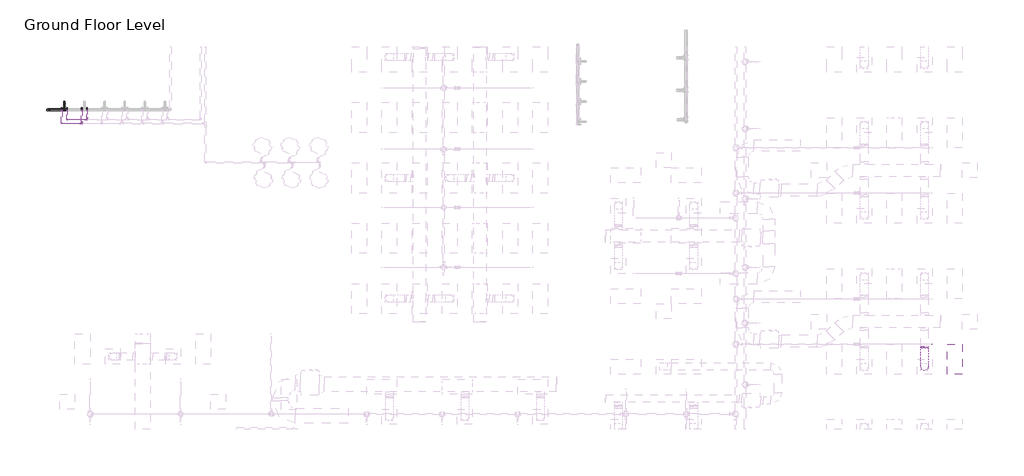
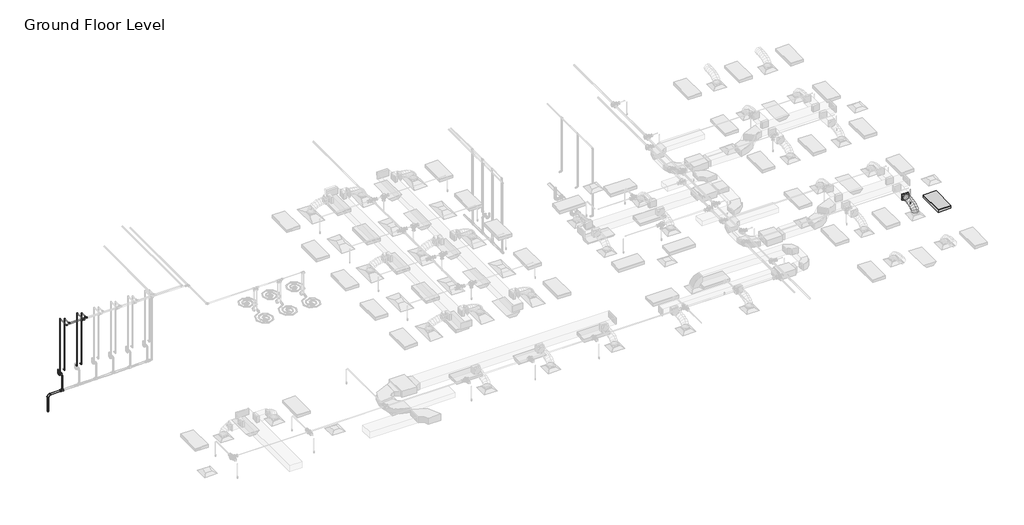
# One storey, part 38 of 66: 22 pipe fittings, 22 pipe segments, 1 duct fitting, 1 duct segment, 1 fire suppression terminal, 1 light fixture.
"""IFC4 building model written with IfcOpenShell, lengths in millimetres."""

from ifc_helpers import new_model, si_unit, point, frame, frame_2d, origin, place, context, project, spatial, circle_curve, ellipse_curve, trimmed, segment, composite_curve, outline, extrude, transform, mapped, element, save
from ifc_brep_helpers import plane_surface, cylinder_surface, advanced_brep
from components import m_rectangular_to_round_transition_angle_45_degree_641efff0, m_sprinkler_dry_pendent_hosted_15_mm_dry_pendent_9bda8e11, m_troffer_light_parabolic_rectangular1_0600x1200mm_4_lamp_86473d4a, m_bend_pvc_sch_40_dwv_standard_0eeb11e1, m_bend_pvc_sch_40_dwv_standard_1e7bdcc1, m_bend_pvc_sch_40_dwv_standard_776e50c4, m_bend_pvc_sch_40_dwv_standard_a69ec96e, m_tee_reducing_sanitary_pvc_sch_40_dwv_standard_21d2848c, standard_b266ab3f, standard_72b35c3b, standard_e954f56a, standard_c7dcb452

model = new_model("IFC4")

# Units and contexts
model_context = context("Model", 3, world=origin())
ifc_project = project(units=[si_unit("LENGTHUNIT", "METRE", prefix="MILLI")], contexts=[model_context])

# Site, building, storey
site = spatial("IfcSite", under=ifc_project)
building = spatial("IfcBuilding", under=site)
storey = spatial("IfcBuildingStorey", under=building, Name="Ground Floor Level", Elevation=900.0)

# Duct fitting
placement = place(None, origin())
m_rectangular_to_round_transition_angle_45_degree_shape = m_rectangular_to_round_transition_angle_45_degree_641efff0(model_context)
element("IfcDuctFitting", 1, ObjectType="M_Rectangular to Round Transition - Angle : 45 Degree", at=placement, inside=storey, context=model_context, shape_type="MappedRepresentation", body=[
    mapped(m_rectangular_to_round_transition_angle_45_degree_shape, transform((13142.7672395, -247.4487153, 4100.0), x_axis=(0.0, -1.0, 0.0), y_axis=(1.0, 0.0, 0.0), z_axis=(0.0, 0.0, 1.0))),
])

# Duct segment
element("IfcDuctSegment", 2, ObjectType="Flex - Round", at=placement, inside=storey, context=model_context, shape_type="AdvancedBrep", body=[
    advanced_brep(
    [(13292.7672395, -1074.7846466, 3826.6), (13142.7672395, -1224.7846466, 3826.6), (12992.7672395, -1074.7846466, 3826.6), (13142.7672395, -924.7846466, 3826.6), (13292.7672395, -1074.7846466, 3857.9377114), (13142.7672395, -1224.7846466, 3883.5809337), (12992.7672395, -1074.7846466, 3857.9377114), (13142.7672395, -924.7846466, 3832.2944892), (13292.7672395, -1057.7687141, 3906.2505728), (13142.7672395, -1191.506693, 3978.0660967), (12992.7672395, -1057.7687141, 3906.2505728), (13142.7672395, -924.0307351, 3834.435049), (13292.7672395, -1010.5848337, 3968.7113131), (13142.7672395, -1114.790733, 4079.6206026), (12992.7672395, -1010.5848337, 3968.7113131), (13142.7672395, -906.3789345, 3857.8020236), (13292.7672395, -939.0288816, 4016.0700639), (13142.7672395, -1007.9629372, 4150.3237489), (12992.7672395, -939.0288816, 4016.0700639), (13142.7672395, -870.0948259, 3881.8163788), (13292.7672395, -848.8967336, 4050.4146682), (13142.7672395, -892.4574967, 4194.3367758), (12992.7672395, -848.8967336, 4050.4146682), (13142.7672395, -805.3359704, 3906.4925606), (13292.7672395, -745.9842657, 4073.8329691), (13142.7672395, -772.5451897, 4221.6234841), (12992.7672395, -745.9842657, 4073.8329691), (13142.7672395, -719.4233417, 3926.0424542), (13292.7672395, -636.087354, 4088.4128097), (13142.7672395, -651.2382563, 4237.7170733), (12992.7672395, -636.087354, 4088.4128097), (13142.7672395, -620.9364516, 3939.1085462), (13292.7672395, -525.0018744, 4096.242033), (13142.7672395, -532.5072025, 4246.085151), (12992.7672395, -525.0018744, 4096.242033), (13142.7672395, -517.4965462, 3946.398915), (13292.7672395, -418.5237028, 4099.4084821), (13142.7672395, -421.2151959, 4249.394754), (12992.7672395, -418.5237028, 4099.4084821), (13142.7672395, -415.8322097, 3949.4222102), (13292.7672395, -322.4487153, 4100.0), (13142.7672395, -321.5252075, 3950.0028429), (12992.7672395, -322.4487153, 4100.0), (13142.7672395, -323.3722232, 4249.9971571)],
    [
        (0, 1, circle_curve(frame((13142.7672395, -1074.7846466, 3826.6), z_axis=(0.0, 0.0, -1.0), x_axis=(1.0, 0.0, 0.0)), 150.0)),
        (1, 2, circle_curve(frame((13142.7672395, -1074.7846466, 3826.6), z_axis=(0.0, 0.0, -1.0), x_axis=(1.0, 0.0, 0.0)), 150.0)),
        (2, 3, circle_curve(frame((13142.7672395, -1074.7846466, 3826.6), z_axis=(0.0, 0.0, -1.0), x_axis=(1.0, 0.0, 0.0)), 150.0)),
        (3, 0, circle_curve(frame((13142.7672395, -1074.7846466, 3826.6), z_axis=(0.0, 0.0, -1.0), x_axis=(1.0, 0.0, 0.0)), 150.0)),
        (0, 4),
        (4, 5, ellipse_curve(frame((13142.7672395, -1074.7846466, 3857.9377114), z_axis=(0.0, -0.16851014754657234, -0.9856999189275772), x_axis=(0.0, 0.9856999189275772, -0.1685101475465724)), 152.176131, 150.0)),
        (5, 1),
        (5, 6, ellipse_curve(frame((13142.7672395, -1074.7846466, 3857.9377114), z_axis=(0.0, -0.16851014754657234, -0.9856999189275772), x_axis=(0.0, 0.9856999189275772, -0.1685101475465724)), 152.176131, 150.0)),
        (6, 2),
        (6, 7, ellipse_curve(frame((13142.7672395, -1074.7846466, 3857.9377114), z_axis=(0.0, -0.16851014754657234, -0.9856999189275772), x_axis=(0.0, 0.9856999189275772, -0.1685101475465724)), 152.176131, 150.0)),
        (7, 3),
        (7, 4, ellipse_curve(frame((13142.7672395, -1074.7846466, 3857.9377114), z_axis=(0.0, -0.16851014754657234, -0.9856999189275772), x_axis=(0.0, 0.9856999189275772, -0.1685101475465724)), 152.176131, 150.0)),
        (4, 8),
        (8, 9, ellipse_curve(frame((13142.7672395, -1057.7687141, 3906.2505728), z_axis=(0.0, -0.4730922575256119, -0.8810128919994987), x_axis=(0.0, 0.8810128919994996, -0.47309225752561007)), 151.8002519, 150.0)),
        (9, 5),
        (9, 10, ellipse_curve(frame((13142.7672395, -1057.7687141, 3906.2505728), z_axis=(0.0, -0.4730922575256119, -0.8810128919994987), x_axis=(0.0, 0.8810128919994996, -0.47309225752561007)), 151.8002519, 150.0)),
        (10, 6),
        (10, 11, ellipse_curve(frame((13142.7672395, -1057.7687141, 3906.2505728), z_axis=(0.0, -0.4730922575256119, -0.8810128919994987), x_axis=(0.0, 0.8810128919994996, -0.47309225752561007)), 151.8002519, 150.0)),
        (11, 7),
        (11, 8, ellipse_curve(frame((13142.7672395, -1057.7687141, 3906.2505728), z_axis=(0.0, -0.4730922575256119, -0.8810128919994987), x_axis=(0.0, 0.8810128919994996, -0.47309225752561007)), 151.8002519, 150.0)),
        (8, 12),
        (12, 13, ellipse_curve(frame((13142.7672395, -1010.5848337, 3968.7113131), z_axis=(0.0, -0.7287877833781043, -0.6847396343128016), x_axis=(0.0, 0.684739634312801, -0.7287877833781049)), 152.1832446, 150.0)),
        (13, 9),
        (13, 14, ellipse_curve(frame((13142.7672395, -1010.5848337, 3968.7113131), z_axis=(0.0, -0.7287877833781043, -0.6847396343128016), x_axis=(0.0, 0.684739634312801, -0.7287877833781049)), 152.1832446, 150.0)),
        (14, 10),
        (14, 15, ellipse_curve(frame((13142.7672395, -1010.5848337, 3968.7113131), z_axis=(0.0, -0.7287877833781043, -0.6847396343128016), x_axis=(0.0, 0.684739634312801, -0.7287877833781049)), 152.1832446, 150.0)),
        (15, 11),
        (15, 12, ellipse_curve(frame((13142.7672395, -1010.5848337, 3968.7113131), z_axis=(0.0, -0.7287877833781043, -0.6847396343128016), x_axis=(0.0, 0.684739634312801, -0.7287877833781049)), 152.1832446, 150.0)),
        (12, 16),
        (16, 17, ellipse_curve(frame((13142.7672395, -939.0288816, 4016.0700639), z_axis=(0.0, -0.8895859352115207, -0.4567678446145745), x_axis=(0.0, 0.45676784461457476, -0.8895859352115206)), 150.91705, 150.0)),
        (17, 13),
        (17, 18, ellipse_curve(frame((13142.7672395, -939.0288816, 4016.0700639), z_axis=(0.0, -0.8895859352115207, -0.4567678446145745), x_axis=(0.0, 0.45676784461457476, -0.8895859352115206)), 150.91705, 150.0)),
        (18, 14),
        (18, 19, ellipse_curve(frame((13142.7672395, -939.0288816, 4016.0700639), z_axis=(0.0, -0.8895859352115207, -0.4567678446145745), x_axis=(0.0, 0.45676784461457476, -0.8895859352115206)), 150.91705, 150.0)),
        (19, 15),
        (19, 16, ellipse_curve(frame((13142.7672395, -939.0288816, 4016.0700639), z_axis=(0.0, -0.8895859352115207, -0.4567678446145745), x_axis=(0.0, 0.45676784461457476, -0.8895859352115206)), 150.91705, 150.0)),
        (16, 20),
        (20, 21, ellipse_curve(frame((13142.7672395, -848.8967336, 4050.4146682), z_axis=(0.0, -0.9571203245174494, -0.2896906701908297), x_axis=(0.0, 0.2896906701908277, -0.9571203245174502)), 150.369921, 150.0)),
        (21, 17),
        (21, 22, ellipse_curve(frame((13142.7672395, -848.8967336, 4050.4146682), z_axis=(0.0, -0.9571203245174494, -0.2896906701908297), x_axis=(0.0, 0.2896906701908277, -0.9571203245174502)), 150.369921, 150.0)),
        (22, 18),
        (22, 23, ellipse_curve(frame((13142.7672395, -848.8967336, 4050.4146682), z_axis=(0.0, -0.9571203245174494, -0.2896906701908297), x_axis=(0.0, 0.2896906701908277, -0.9571203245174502)), 150.369921, 150.0)),
        (23, 19),
        (23, 20, ellipse_curve(frame((13142.7672395, -848.8967336, 4050.4146682), z_axis=(0.0, -0.9571203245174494, -0.2896906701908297), x_axis=(0.0, 0.2896906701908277, -0.9571203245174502)), 150.369921, 150.0)),
        (20, 24),
        (24, 25, ellipse_curve(frame((13142.7672395, -745.9842657, 4073.8329691), z_axis=(0.0, -0.9842313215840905, -0.1768861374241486), x_axis=(0.0, 0.17688613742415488, -0.9842313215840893)), 150.1583131, 150.0)),
        (25, 21),
        (25, 26, ellipse_curve(frame((13142.7672395, -745.9842657, 4073.8329691), z_axis=(0.0, -0.9842313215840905, -0.1768861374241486), x_axis=(0.0, 0.17688613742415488, -0.9842313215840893)), 150.1583131, 150.0)),
        (26, 22),
        (26, 27, ellipse_curve(frame((13142.7672395, -745.9842657, 4073.8329691), z_axis=(0.0, -0.9842313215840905, -0.1768861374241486), x_axis=(0.0, 0.17688613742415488, -0.9842313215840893)), 150.1583131, 150.0)),
        (27, 23),
        (27, 24, ellipse_curve(frame((13142.7672395, -745.9842657, 4073.8329691), z_axis=(0.0, -0.9842313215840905, -0.1768861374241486), x_axis=(0.0, 0.17688613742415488, -0.9842313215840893)), 150.1583131, 150.0)),
        (24, 28),
        (28, 29, ellipse_curve(frame((13142.7672395, -636.087354, 4088.4128097), z_axis=(0.0, -0.9948906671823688, -0.1009582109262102), x_axis=(0.0, 0.10095821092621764, -0.994890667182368)), 150.0710264, 150.0)),
        (29, 25),
        (29, 30, ellipse_curve(frame((13142.7672395, -636.087354, 4088.4128097), z_axis=(0.0, -0.9948906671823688, -0.1009582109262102), x_axis=(0.0, 0.10095821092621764, -0.994890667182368)), 150.0710264, 150.0)),
        (30, 26),
        (30, 31, ellipse_curve(frame((13142.7672395, -636.087354, 4088.4128097), z_axis=(0.0, -0.9948906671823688, -0.1009582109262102), x_axis=(0.0, 0.10095821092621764, -0.994890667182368)), 150.0710264, 150.0)),
        (31, 27),
        (31, 28, ellipse_curve(frame((13142.7672395, -636.087354, 4088.4128097), z_axis=(0.0, -0.9948906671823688, -0.1009582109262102), x_axis=(0.0, 0.10095821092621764, -0.994890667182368)), 150.0710264, 150.0)),
        (28, 32),
        (32, 33, ellipse_curve(frame((13142.7672395, -525.0018744, 4096.242033), z_axis=(0.0, -0.9987479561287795, -0.05002519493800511), x_axis=(0.0, 0.050025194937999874, -0.9987479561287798)), 150.0309634, 150.0)),
        (33, 29),
        (33, 34, ellipse_curve(frame((13142.7672395, -525.0018744, 4096.242033), z_axis=(0.0, -0.9987479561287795, -0.05002519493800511), x_axis=(0.0, 0.050025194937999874, -0.9987479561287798)), 150.0309634, 150.0)),
        (34, 30),
        (34, 35, ellipse_curve(frame((13142.7672395, -525.0018744, 4096.242033), z_axis=(0.0, -0.9987479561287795, -0.05002519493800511), x_axis=(0.0, 0.050025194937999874, -0.9987479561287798)), 150.0309634, 150.0)),
        (35, 31),
        (35, 32, ellipse_curve(frame((13142.7672395, -525.0018744, 4096.242033), z_axis=(0.0, -0.9987479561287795, -0.05002519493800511), x_axis=(0.0, 0.050025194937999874, -0.9987479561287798)), 150.0309634, 150.0)),
        (32, 36),
        (36, 37, ellipse_curve(frame((13142.7672395, -418.5237028, 4099.4084821), z_axis=(0.0, -0.9998390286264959, -0.017942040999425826), x_axis=(0.0, 0.017942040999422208, -0.999839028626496)), 150.0104193, 150.0)),
        (37, 33),
        (37, 38, ellipse_curve(frame((13142.7672395, -418.5237028, 4099.4084821), z_axis=(0.0, -0.9998390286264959, -0.017942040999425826), x_axis=(0.0, 0.017942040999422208, -0.999839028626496)), 150.0104193, 150.0)),
        (38, 34),
        (38, 39, ellipse_curve(frame((13142.7672395, -418.5237028, 4099.4084821), z_axis=(0.0, -0.9998390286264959, -0.017942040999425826), x_axis=(0.0, 0.017942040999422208, -0.999839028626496)), 150.0104193, 150.0)),
        (39, 35),
        (39, 36, ellipse_curve(frame((13142.7672395, -418.5237028, 4099.4084821), z_axis=(0.0, -0.9998390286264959, -0.017942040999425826), x_axis=(0.0, 0.017942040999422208, -0.999839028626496)), 150.0104193, 150.0)),
        (40, 41, circle_curve(frame((13142.7672395, -322.4487153, 4100.0), z_axis=(0.0, 0.9999810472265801, 0.006156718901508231), x_axis=(1.0, 0.0, 0.0)), 150.0)),
        (41, 42, circle_curve(frame((13142.7672395, -322.4487153, 4100.0), z_axis=(0.0, 0.9999810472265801, 0.006156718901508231), x_axis=(1.0, 0.0, 0.0)), 150.0)),
        (42, 43, circle_curve(frame((13142.7672395, -322.4487153, 4100.0), z_axis=(0.0, 0.9999810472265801, 0.006156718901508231), x_axis=(1.0, 0.0, 0.0)), 150.0)),
        (43, 40, circle_curve(frame((13142.7672395, -322.4487153, 4100.0), z_axis=(0.0, 0.9999810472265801, 0.006156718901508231), x_axis=(1.0, 0.0, 0.0)), 150.0)),
        (36, 40),
        (43, 37),
        (42, 38),
        (41, 39),
    ],
    [
        plane_surface(frame((13142.7672395, -1224.7846466, 3826.6), z_axis=(0.0, 0.0, -1.0), x_axis=(1.0, 0.0, 0.0))),
        cylinder_surface(frame((13142.7672395, -1074.7846466, 3826.6), z_axis=(0.0, 0.0, -1.0), x_axis=(1.0, 0.0, 0.0)), 150.0),
        cylinder_surface(frame((13142.7672395, -1074.7846466, 3857.9377114), z_axis=(0.0, -0.3322008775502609, -0.9432086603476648), x_axis=(1.0, 0.0, 0.0)), 150.0),
        cylinder_surface(frame((13142.7672395, -1057.7687141, 3906.2505728), z_axis=(0.0, -0.6027625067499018, -0.7979206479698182), x_axis=(1.0, 0.0, 0.0)), 150.0),
        cylinder_surface(frame((13142.7672395, -1010.5848337, 3968.7113131), z_axis=(0.0, -0.8339024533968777, -0.5519118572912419), x_axis=(1.0, 0.0, 0.0)), 150.0),
        cylinder_surface(frame((13142.7672395, -939.0288816, 4016.0700639), z_axis=(0.0, -0.9344582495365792, -0.3560727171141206), x_axis=(1.0, 0.0, 0.0)), 150.0),
        cylinder_surface(frame((13142.7672395, -848.8967336, 4050.4146682), z_axis=(0.0, -0.9750732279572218, -0.22188330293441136), x_axis=(1.0, 0.0, 0.0)), 150.0),
        cylinder_surface(frame((13142.7672395, -745.9842657, 4073.8329691), z_axis=(0.0, -0.9913140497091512, -0.1315159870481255), x_axis=(1.0, 0.0, 0.0)), 150.0),
        cylinder_surface(frame((13142.7672395, -636.087354, 4088.4128097), z_axis=(0.0, -0.9975255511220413, -0.07030487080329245), x_axis=(1.0, 0.0, 0.0)), 150.0),
        cylinder_surface(frame((13142.7672395, -525.0018744, 4096.242033), z_axis=(0.0, -0.9995581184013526, -0.029724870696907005), x_axis=(1.0, 0.0, 0.0)), 150.0),
        plane_surface(frame((13142.7672395, -323.3722232, 4249.9971571), z_axis=(0.0, 0.9999810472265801, 0.006156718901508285), x_axis=(1.0, 0.0, 0.0))),
        cylinder_surface(frame((13142.7672395, -418.5237028, 4099.4084821), z_axis=(0.0, -0.9999810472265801, -0.006156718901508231), x_axis=(1.0, 0.0, 0.0)), 150.0),
    ],
    [
        (0, [[1, 2, 3, 4]]),
        (1, [[-1, 5, 6, 7]]),
        (1, [[-2, -7, 8, 9]]),
        (1, [[-3, -9, 10, 11]]),
        (1, [[-4, -11, 12, -5]]),
        (2, [[-6, 13, 14, 15]]),
        (2, [[-8, -15, 16, 17]]),
        (2, [[-10, -17, 18, 19]]),
        (2, [[-12, -19, 20, -13]]),
        (3, [[-14, 21, 22, 23]]),
        (3, [[-16, -23, 24, 25]]),
        (3, [[-18, -25, 26, 27]]),
        (3, [[-20, -27, 28, -21]]),
        (4, [[-22, 29, 30, 31]]),
        (4, [[-24, -31, 32, 33]]),
        (4, [[-26, -33, 34, 35]]),
        (4, [[-28, -35, 36, -29]]),
        (5, [[-30, 37, 38, 39]]),
        (5, [[-32, -39, 40, 41]]),
        (5, [[-34, -41, 42, 43]]),
        (5, [[-36, -43, 44, -37]]),
        (6, [[-38, 45, 46, 47]]),
        (6, [[-40, -47, 48, 49]]),
        (6, [[-42, -49, 50, 51]]),
        (6, [[-44, -51, 52, -45]]),
        (7, [[-46, 53, 54, 55]]),
        (7, [[-48, -55, 56, 57]]),
        (7, [[-50, -57, 58, 59]]),
        (7, [[-52, -59, 60, -53]]),
        (8, [[-54, 61, 62, 63]]),
        (8, [[-56, -63, 64, 65]]),
        (8, [[-58, -65, 66, 67]]),
        (8, [[-60, -67, 68, -61]]),
        (9, [[-62, 69, 70, 71]]),
        (9, [[-64, -71, 72, 73]]),
        (9, [[-66, -73, 74, 75]]),
        (9, [[-68, -75, 76, -69]]),
        (10, [[77, 78, 79, 80]]),
        (11, [[-70, 81, -80, 82]]),
        (11, [[-72, -82, -79, 83]]),
        (11, [[-74, -83, -78, 84]]),
        (11, [[-76, -84, -77, -81]]),
    ],
),
])

# Fire suppression terminal
m_sprinkler_dry_pendent_hosted_15_mm_dry_pendent_shape = m_sprinkler_dry_pendent_hosted_15_mm_dry_pendent_9bda8e11(model_context)
element("IfcFireSuppressionTerminal", 3, ObjectType="M_Sprinkler - Dry - Pendent - Hosted : 15 mm Dry Pendent", at=placement, inside=storey, context=model_context, shape_type="MappedRepresentation", body=[
    mapped(m_sprinkler_dry_pendent_hosted_15_mm_dry_pendent_shape, transform((13442.7672395, -174.7846466, 3650.0), x_axis=(1.0, 0.0, 0.0), y_axis=(0.0, -1.0, 0.0), z_axis=(0.0, 0.0, -1.0))),
])

# Light fixture
m_troffer_light_parabolic_rectangular1_0600x1200mm_4_lamp_shape = m_troffer_light_parabolic_rectangular1_0600x1200mm_4_lamp_86473d4a(model_context)
element("IfcLightFixture", 4, ObjectType="M_Troffer Light - Parabolic Rectangular1 : 0600x1200mm(4 Lamp) - 277V 2", at=placement, inside=storey, context=model_context, shape_type="MappedRepresentation", body=[
    mapped(m_troffer_light_parabolic_rectangular1_0600x1200mm_4_lamp_shape, transform((14283.3013074, -756.081145, 3650.0), x_axis=(0.0, 1.0, 0.0), y_axis=(-1.0, 0.0, 0.0), z_axis=(0.0, 0.0, 1.0))),
])

# Pipe fittings
m_bend_pvc_sch_40_dwv_standard_shape = m_bend_pvc_sch_40_dwv_standard_0eeb11e1(model_context)
element("IfcPipeFitting", 5, ObjectType="M_Bend - PVC - Sch 40 - DWV : Standard", at=placement, inside=storey, context=model_context, shape_type="MappedRepresentation", body=[
    mapped(m_bend_pvc_sch_40_dwv_standard_shape, transform((-21725.2711391, 9143.7835646, 712.5143809), x_axis=(-0.9999500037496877, 0.0, -0.009999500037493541), y_axis=(0.009999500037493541, 0.0, -0.9999500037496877), z_axis=(0.0, -1.0, 0.0))),
])
m_bend_pvc_sch_40_dwv_standard_2_shape = m_bend_pvc_sch_40_dwv_standard_1e7bdcc1(model_context)
element("IfcPipeFitting", 6, ObjectType="M_Bend - PVC - Sch 40 - DWV : Standard", at=placement, inside=storey, context=model_context, shape_type="MappedRepresentation", body=[
    mapped(m_bend_pvc_sch_40_dwv_standard_2_shape, transform((-21061.7062458, 9143.7835645, 1498.2000033), x_axis=(0.0, -0.9999500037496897, -0.00999950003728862), y_axis=(0.0, 0.00999950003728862, -0.9999500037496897), z_axis=(1.0, 0.0, 0.0))),
])
m_bend_pvc_sch_40_dwv_standard_3_shape = m_bend_pvc_sch_40_dwv_standard_776e50c4(model_context)
element("IfcPipeFitting", 7, ObjectType="M_Bend - PVC - Sch 40 - DWV : Standard", at=placement, inside=storey, context=model_context, shape_type="MappedRepresentation", body=[
    mapped(m_bend_pvc_sch_40_dwv_standard_3_shape, transform((-21061.7062458, 9323.7832388, 1358.6825726), x_axis=(0.0, -0.9999500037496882, -0.009999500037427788), y_axis=(0.0, -0.009999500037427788, 0.9999500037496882), z_axis=(-1.0, 0.0, 0.0))),
])
element("IfcPipeFitting", 8, ObjectType="M_Bend - PVC - Sch 40 - DWV : Standard", at=placement, inside=storey, context=model_context, shape_type="MappedRepresentation", body=[
    mapped(m_bend_pvc_sch_40_dwv_standard_3_shape, transform((-21061.7062458, 9323.7832388, 1500.0), x_axis=(0.0, 0.0, 1.0), y_axis=(0.0, -1.0, 0.0), z_axis=(1.0, 0.0, 0.0))),
])
m_bend_pvc_sch_40_dwv_standard_4_shape = m_bend_pvc_sch_40_dwv_standard_a69ec96e(model_context)
element("IfcPipeFitting", 9, ObjectType="M_Bend - PVC - Sch 40 - DWV : Standard", at=placement, inside=storey, context=model_context, shape_type="MappedRepresentation", body=[
    mapped(m_bend_pvc_sch_40_dwv_standard_4_shape, transform((-21061.7062458, 9458.7835646, 1360.0325758), x_axis=(0.0, 0.999950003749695, 0.009999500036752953), y_axis=(0.007367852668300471, -0.009999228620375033, 0.999922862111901), z_axis=(0.999972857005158, 7.36748430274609e-05, -0.007367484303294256))),
])
m_tee_reducing_sanitary_pvc_sch_40_dwv_standard_shape = m_tee_reducing_sanitary_pvc_sch_40_dwv_standard_21d2848c(model_context)
element("IfcPipeFitting", 10, ObjectType="M_Tee Reducing Sanitary - PVC - Sch 40 - DWV : Standard", at=placement, inside=storey, context=model_context, shape_type="MappedRepresentation", body=[
    mapped(m_tee_reducing_sanitary_pvc_sch_40_dwv_standard_shape, transform((-21061.7062458, 9143.7835645, 719.2500298), x_axis=(0.9999500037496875, 0.0, 0.009999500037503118), y_axis=(0.009999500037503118, 0.0, -0.9999500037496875), z_axis=(0.0, 1.0, 0.0))),
])
standard_shape = standard_b266ab3f(model_context)
element("IfcPipeFitting", 11, ObjectType="M_Elbow - CPVC - Sch 40 : Standard", at=placement, inside=storey, context=model_context, shape_type="MappedRepresentation", body=[
    mapped(standard_shape, transform((-21165.5651206, 9135.2153534, 1690.0), x_axis=(0.0, -1.0, 0.0), y_axis=(0.0, 0.0, 1.0), z_axis=(-1.0, 0.0, 0.0))),
])
element("IfcPipeFitting", 12, ObjectType="M_Elbow - CPVC - Sch 40 : Standard", at=placement, inside=storey, context=model_context, shape_type="MappedRepresentation", body=[
    mapped(standard_shape, transform((-21165.5651206, 9135.2153534, 4315.0), x_axis=(0.0, 0.0, 1.0), y_axis=(0.0, -1.0, 0.0), z_axis=(1.0, 0.0, 0.0))),
])
element("IfcPipeFitting", 13, ObjectType="M_Elbow - CPVC - Sch 40 : Standard", at=placement, inside=storey, context=model_context, shape_type="MappedRepresentation", body=[
    mapped(standard_shape, transform((-20956.9352794, 9135.2153534, 1690.0), x_axis=(0.0, -1.0, 0.0), y_axis=(0.0, 0.0, 1.0), z_axis=(-1.0, 0.0, 0.0))),
])
element("IfcPipeFitting", 14, ObjectType="M_Elbow - CPVC - Sch 40 : Standard", at=placement, inside=storey, context=model_context, shape_type="MappedRepresentation", body=[
    mapped(standard_shape, transform((-20956.9352794, 9135.2153534, 4250.0), x_axis=(0.0, 0.0, 1.0), y_axis=(0.0, -1.0, 0.0), z_axis=(1.0, 0.0, 0.0))),
])
element("IfcPipeFitting", 15, ObjectType="M_Elbow - CPVC - Sch 40 : Standard", at=placement, inside=storey, context=model_context, shape_type="MappedRepresentation", body=[
    mapped(standard_shape, transform((-20156.9352794, 9135.2153534, 4250.0), x_axis=(0.0, 0.0, 1.0), y_axis=(0.0, -1.0, 0.0), z_axis=(1.0, 0.0, 0.0))),
])
element("IfcPipeFitting", 16, ObjectType="M_Elbow - CPVC - Sch 40 : Standard", at=placement, inside=storey, context=model_context, shape_type="MappedRepresentation", body=[
    mapped(standard_shape, transform((-20365.5651206, 9135.2153534, 1690.0), x_axis=(0.0, 0.0, -1.0), y_axis=(0.0, 1.0, 0.0), z_axis=(1.0, 0.0, 0.0))),
])
element("IfcPipeFitting", 17, ObjectType="M_Elbow - CPVC - Sch 40 : Standard", at=placement, inside=storey, context=model_context, shape_type="MappedRepresentation", body=[
    mapped(standard_shape, transform((-20156.9352794, 9135.2153534, 1690.0), x_axis=(0.0, 0.0, -1.0), y_axis=(0.0, 1.0, 0.0), z_axis=(1.0, 0.0, 0.0))),
])
element("IfcPipeFitting", 18, ObjectType="M_Elbow - CPVC - Sch 40 : Standard", at=placement, inside=storey, context=model_context, shape_type="MappedRepresentation", body=[
    mapped(standard_shape, transform((-20365.5651206, 9135.2153534, 4315.0), x_axis=(0.0, 0.0, 1.0), y_axis=(0.0, -1.0, 0.0), z_axis=(1.0, 0.0, 0.0))),
])
element("IfcPipeFitting", 19, ObjectType="M_Elbow - CPVC - Sch 40 : Standard", at=placement, inside=storey, context=model_context, shape_type="MappedRepresentation", body=[
    mapped(standard_shape, transform((-21165.5651206, 8599.9071734, 4315.0), x_axis=(0.0, -1.0, 0.0), y_axis=(1.0, 0.0, 0.0), z_axis=(0.0, 0.0, 1.0))),
])
element("IfcPipeFitting", 20, ObjectType="M_Elbow - CPVC - Sch 40 : Standard", at=placement, inside=storey, context=model_context, shape_type="MappedRepresentation", body=[
    mapped(standard_shape, transform((-20956.9352794, 8755.2153534, 4250.0), x_axis=(0.0, -1.0, 0.0), y_axis=(1.0, 0.0, 0.0), z_axis=(0.0, 0.0, 1.0))),
])
standard_2_shape = standard_72b35c3b(model_context)
element("IfcPipeFitting", 21, ObjectType="M_Tee - CPVC - Sch 40 : Standard", at=placement, inside=storey, context=model_context, shape_type="MappedRepresentation", body=[
    mapped(standard_2_shape, transform((-20365.5651206, 8599.9071734, 4315.0), x_axis=(1.0, 0.0, 0.0), y_axis=(0.0, -1.0, 0.0), z_axis=(0.0, 0.0, -1.0))),
])
element("IfcPipeFitting", 22, ObjectType="M_Tee - CPVC - Sch 40 : Standard", at=placement, inside=storey, context=model_context, shape_type="MappedRepresentation", body=[
    mapped(standard_2_shape, transform((-20156.9352794, 8755.2153534, 4250.0), x_axis=(-1.0, 0.0, 0.0), y_axis=(0.0, -1.0, 0.0), z_axis=(0.0, 0.0, 1.0))),
])
standard_3_shape = standard_e954f56a(model_context)
element("IfcPipeFitting", 23, ObjectType="M_Coupling Reducing - CPVC - Sch 40 : Standard", at=placement, inside=storey, context=model_context, shape_type="MappedRepresentation", body=[
    mapped(standard_3_shape, transform((-20365.5651206, 8639.6073734, 4315.0), x_axis=(0.0, 1.0, 0.0), y_axis=(-1.0, 0.0, 0.0), z_axis=(0.0, 0.0, 1.0))),
])
element("IfcPipeFitting", 24, ObjectType="M_Coupling Reducing - CPVC - Sch 40 : Standard", at=placement, inside=storey, context=model_context, shape_type="MappedRepresentation", body=[
    mapped(standard_3_shape, transform((-20196.6354794, 8755.2153534, 4250.0), x_axis=(-1.0, 0.0, 0.0), y_axis=(0.0, -1.0, 0.0), z_axis=(0.0, 0.0, 1.0))),
])
element("IfcPipeFitting", 25, ObjectType="M_Coupling Reducing - CPVC - Sch 40 : Standard", at=placement, inside=storey, context=model_context, shape_type="MappedRepresentation", body=[
    mapped(standard_3_shape, transform((-20156.9352794, 8794.9155534, 4250.0), x_axis=(0.0, 1.0, 0.0), y_axis=(-1.0, 0.0, 0.0), z_axis=(0.0, 0.0, 1.0))),
])
standard_4_shape = standard_c7dcb452(model_context)
element("IfcPipeFitting", 26, ObjectType="M_Coupling Reducing - CPVC - Sch 40 : Standard", at=placement, inside=storey, context=model_context, shape_type="MappedRepresentation", body=[
    mapped(standard_4_shape, transform((-20462.4153206, 8599.9071734, 4315.0), x_axis=(1.0, 0.0, 0.0), y_axis=(0.0, 1.0, 0.0), z_axis=(0.0, 0.0, 1.0))),
])

# Pipe segments
element("IfcPipeSegment", 27, ObjectType="CPVC", at=placement, inside=storey, context=model_context, shape_type="SweptSolid", body=[
    extrude(outline(composite_curve([segment(trimmed(circle_curve(frame_2d((1690.0, -21165.5651206)), 13.335), [point((1690.0, -21178.9001206))], [point((1676.665, -21165.5651206))], False, "CARTESIAN"), True, "CONTINUOUS"), segment(trimmed(circle_curve(frame_2d((1690.0, -21165.5651206)), 13.335), [point((1676.665, -21165.5651206))], [point((1690.0, -21152.2301206))], False, "CARTESIAN"), True, "CONTINUOUS"), segment(trimmed(circle_curve(frame_2d((1690.0, -21165.5651206)), 13.335), [point((1690.0, -21152.2301206))], [point((1703.335, -21165.5651206))], False, "CARTESIAN"), True, "CONTINUOUS"), segment(trimmed(circle_curve(frame_2d((1690.0, -21165.5651206)), 13.335), [point((1703.335, -21165.5651206))], [point((1690.0, -21178.9001206))], False, "CARTESIAN"), True, "CONTINUOUS")], self_intersect=False)), frame((0.0, 9170.5404034, 0.0), z_axis=(0.0, 1.0, 0.0), x_axis=(0.0, 0.0, 1.0)), (0.0, 0.0, 1.0), 64.67495),
])
element("IfcPipeSegment", 28, ObjectType="CPVC", at=placement, inside=storey, context=model_context, shape_type="SweptSolid", body=[
    extrude(outline(composite_curve([segment(trimmed(circle_curve(frame_2d((4315.0, -21165.5651206)), 13.335), [point((4315.0, -21178.9001206))], [point((4301.665, -21165.5651206))], False, "CARTESIAN"), True, "CONTINUOUS"), segment(trimmed(circle_curve(frame_2d((4315.0, -21165.5651206)), 13.335), [point((4301.665, -21165.5651206))], [point((4315.0, -21152.2301206))], False, "CARTESIAN"), True, "CONTINUOUS"), segment(trimmed(circle_curve(frame_2d((4315.0, -21165.5651206)), 13.335), [point((4315.0, -21152.2301206))], [point((4328.335, -21165.5651206))], False, "CARTESIAN"), True, "CONTINUOUS"), segment(trimmed(circle_curve(frame_2d((4315.0, -21165.5651206)), 13.335), [point((4328.335, -21165.5651206))], [point((4315.0, -21178.9001206))], False, "CARTESIAN"), True, "CONTINUOUS")], self_intersect=False)), frame((0.0, 8635.2322234, 0.0), z_axis=(0.0, 1.0, 0.0), x_axis=(0.0, 0.0, 1.0)), (0.0, 0.0, 1.0), 464.65808),
])
element("IfcPipeSegment", 29, ObjectType="CPVC", at=placement, inside=storey, context=model_context, shape_type="SweptSolid", body=[
    extrude(outline(composite_curve([segment(trimmed(circle_curve(frame_2d((-21165.5651206, 9135.2153534)), 13.335), [point((-21178.9001206, 9135.2153534))], [point((-21165.5651206, 9148.5503534))], False, "CARTESIAN"), True, "CONTINUOUS"), segment(trimmed(circle_curve(frame_2d((-21165.5651206, 9135.2153534)), 13.335), [point((-21165.5651206, 9148.5503534))], [point((-21152.2301206, 9135.2153534))], False, "CARTESIAN"), True, "CONTINUOUS"), segment(trimmed(circle_curve(frame_2d((-21165.5651206, 9135.2153534)), 13.335), [point((-21152.2301206, 9135.2153534))], [point((-21165.5651206, 9121.8803534))], False, "CARTESIAN"), True, "CONTINUOUS"), segment(trimmed(circle_curve(frame_2d((-21165.5651206, 9135.2153534)), 13.335), [point((-21165.5651206, 9121.8803534))], [point((-21178.9001206, 9135.2153534))], False, "CARTESIAN"), True, "CONTINUOUS")], self_intersect=False)), frame((0.0, 0.0, 1725.32505), z_axis=(0.0, 0.0, 1.0), x_axis=(1.0, 0.0, 0.0)), (0.0, 0.0, 1.0), 2554.3499),
])
element("IfcPipeSegment", 30, ObjectType="CPVC", at=placement, inside=storey, context=model_context, shape_type="SweptSolid", body=[
    extrude(outline(composite_curve([segment(trimmed(circle_curve(frame_2d((1690.0, -20956.9352794)), 13.335), [point((1690.0, -20970.2702794))], [point((1676.665, -20956.9352794))], False, "CARTESIAN"), True, "CONTINUOUS"), segment(trimmed(circle_curve(frame_2d((1690.0, -20956.9352794)), 13.335), [point((1676.665, -20956.9352794))], [point((1690.0, -20943.6002794))], False, "CARTESIAN"), True, "CONTINUOUS"), segment(trimmed(circle_curve(frame_2d((1690.0, -20956.9352794)), 13.335), [point((1690.0, -20943.6002794))], [point((1703.335, -20956.9352794))], False, "CARTESIAN"), True, "CONTINUOUS"), segment(trimmed(circle_curve(frame_2d((1690.0, -20956.9352794)), 13.335), [point((1703.335, -20956.9352794))], [point((1690.0, -20970.2702794))], False, "CARTESIAN"), True, "CONTINUOUS")], self_intersect=False)), frame((0.0, 9170.5404034, 0.0), z_axis=(0.0, 1.0, 0.0), x_axis=(0.0, 0.0, 1.0)), (0.0, 0.0, 1.0), 64.67495),
])
element("IfcPipeSegment", 31, ObjectType="CPVC", at=placement, inside=storey, context=model_context, shape_type="SweptSolid", body=[
    extrude(outline(composite_curve([segment(trimmed(circle_curve(frame_2d((4250.0, -20956.9352794)), 13.335), [point((4250.0, -20970.2702794))], [point((4236.665, -20956.9352794))], False, "CARTESIAN"), True, "CONTINUOUS"), segment(trimmed(circle_curve(frame_2d((4250.0, -20956.9352794)), 13.335), [point((4236.665, -20956.9352794))], [point((4250.0, -20943.6002794))], False, "CARTESIAN"), True, "CONTINUOUS"), segment(trimmed(circle_curve(frame_2d((4250.0, -20956.9352794)), 13.335), [point((4250.0, -20943.6002794))], [point((4263.335, -20956.9352794))], False, "CARTESIAN"), True, "CONTINUOUS"), segment(trimmed(circle_curve(frame_2d((4250.0, -20956.9352794)), 13.335), [point((4263.335, -20956.9352794))], [point((4250.0, -20970.2702794))], False, "CARTESIAN"), True, "CONTINUOUS")], self_intersect=False)), frame((0.0, 8790.5404034, 0.0), z_axis=(0.0, 1.0, 0.0), x_axis=(0.0, 0.0, 1.0)), (0.0, 0.0, 1.0), 309.3499),
])
element("IfcPipeSegment", 32, ObjectType="CPVC", at=placement, inside=storey, context=model_context, shape_type="SweptSolid", body=[
    extrude(outline(composite_curve([segment(trimmed(circle_curve(frame_2d((-20956.9352794, 9135.2153534)), 13.335), [point((-20970.2702794, 9135.2153534))], [point((-20956.9352794, 9148.5503534))], False, "CARTESIAN"), True, "CONTINUOUS"), segment(trimmed(circle_curve(frame_2d((-20956.9352794, 9135.2153534)), 13.335), [point((-20956.9352794, 9148.5503534))], [point((-20943.6002794, 9135.2153534))], False, "CARTESIAN"), True, "CONTINUOUS"), segment(trimmed(circle_curve(frame_2d((-20956.9352794, 9135.2153534)), 13.335), [point((-20943.6002794, 9135.2153534))], [point((-20956.9352794, 9121.8803534))], False, "CARTESIAN"), True, "CONTINUOUS"), segment(trimmed(circle_curve(frame_2d((-20956.9352794, 9135.2153534)), 13.335), [point((-20956.9352794, 9121.8803534))], [point((-20970.2702794, 9135.2153534))], False, "CARTESIAN"), True, "CONTINUOUS")], self_intersect=False)), frame((0.0, 0.0, 1725.32505), z_axis=(0.0, 0.0, 1.0), x_axis=(1.0, 0.0, 0.0)), (0.0, 0.0, 1.0), 2489.3499),
])
element("IfcPipeSegment", 33, ObjectType="CPVC", at=placement, inside=storey, context=model_context, shape_type="SweptSolid", body=[
    extrude(outline(composite_curve([segment(trimmed(circle_curve(frame_2d((0.0, 13.335)), 13.335), [point((0.0, 26.67))], [point((13.335, 13.335))], False, "CARTESIAN"), True, "CONTINUOUS"), segment(trimmed(circle_curve(frame_2d((0.0, 13.335)), 13.335), [point((13.335, 13.335))], [point((0.0, 0.0))], False, "CARTESIAN"), True, "CONTINUOUS"), segment(trimmed(circle_curve(frame_2d((0.0, 13.335)), 13.335), [point((0.0, 0.0))], [point((-13.335, 13.335))], False, "CARTESIAN"), True, "CONTINUOUS"), segment(trimmed(circle_curve(frame_2d((0.0, 13.335)), 13.335), [point((-13.335, 13.335))], [point((0.0, 26.67))], False, "CARTESIAN"), True, "CONTINUOUS")], self_intersect=False)), frame((-20378.9001206, 9170.5404034, 1690.0), z_axis=(-6.212173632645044e-12, 1.0, 0.0), x_axis=(0.0, 0.0, 1.0)), (0.0, 0.0, 1.0), 64.67495),
])
element("IfcPipeSegment", 34, ObjectType="CPVC", at=placement, inside=storey, context=model_context, shape_type="SweptSolid", body=[
    extrude(outline(composite_curve([segment(trimmed(circle_curve(frame_2d((4315.0, -20365.5651206)), 13.335), [point((4315.0, -20378.9001206))], [point((4301.665, -20365.5651206))], False, "CARTESIAN"), True, "CONTINUOUS"), segment(trimmed(circle_curve(frame_2d((4315.0, -20365.5651206)), 13.335), [point((4301.665, -20365.5651206))], [point((4315.0, -20352.2301206))], False, "CARTESIAN"), True, "CONTINUOUS"), segment(trimmed(circle_curve(frame_2d((4315.0, -20365.5651206)), 13.335), [point((4315.0, -20352.2301206))], [point((4328.335, -20365.5651206))], False, "CARTESIAN"), True, "CONTINUOUS"), segment(trimmed(circle_curve(frame_2d((4315.0, -20365.5651206)), 13.335), [point((4328.335, -20365.5651206))], [point((4315.0, -20378.9001206))], False, "CARTESIAN"), True, "CONTINUOUS")], self_intersect=False)), frame((0.0, 8696.7573734, 0.0), z_axis=(0.0, 1.0, 0.0), x_axis=(0.0, 0.0, 1.0)), (0.0, 0.0, 1.0), 403.13293),
])
element("IfcPipeSegment", 35, ObjectType="CPVC", at=placement, inside=storey, context=model_context, shape_type="SweptSolid", body=[
    extrude(outline(composite_curve([segment(trimmed(circle_curve(frame_2d((-20365.5651206, 9135.2153534)), 13.335), [point((-20378.9001206, 9135.2153534))], [point((-20365.5651206, 9148.5503534))], False, "CARTESIAN"), True, "CONTINUOUS"), segment(trimmed(circle_curve(frame_2d((-20365.5651206, 9135.2153534)), 13.335), [point((-20365.5651206, 9148.5503534))], [point((-20352.2301206, 9135.2153534))], False, "CARTESIAN"), True, "CONTINUOUS"), segment(trimmed(circle_curve(frame_2d((-20365.5651206, 9135.2153534)), 13.335), [point((-20352.2301206, 9135.2153534))], [point((-20365.5651206, 9121.8803534))], False, "CARTESIAN"), True, "CONTINUOUS"), segment(trimmed(circle_curve(frame_2d((-20365.5651206, 9135.2153534)), 13.335), [point((-20365.5651206, 9121.8803534))], [point((-20378.9001206, 9135.2153534))], False, "CARTESIAN"), True, "CONTINUOUS")], self_intersect=False)), frame((0.0, 0.0, 1725.32505), z_axis=(0.0, 0.0, 1.0), x_axis=(1.0, 0.0, 0.0)), (0.0, 0.0, 1.0), 2554.3499),
])
element("IfcPipeSegment", 36, ObjectType="CPVC", at=placement, inside=storey, context=model_context, shape_type="SweptSolid", body=[
    extrude(outline(composite_curve([segment(trimmed(circle_curve(frame_2d((0.0, 13.335)), 13.335), [point((0.0, 26.67))], [point((13.335, 13.335))], False, "CARTESIAN"), True, "CONTINUOUS"), segment(trimmed(circle_curve(frame_2d((0.0, 13.335)), 13.335), [point((13.335, 13.335))], [point((0.0, 0.0))], False, "CARTESIAN"), True, "CONTINUOUS"), segment(trimmed(circle_curve(frame_2d((0.0, 13.335)), 13.335), [point((0.0, 0.0))], [point((-13.335, 13.335))], False, "CARTESIAN"), True, "CONTINUOUS"), segment(trimmed(circle_curve(frame_2d((0.0, 13.335)), 13.335), [point((-13.335, 13.335))], [point((0.0, 26.67))], False, "CARTESIAN"), True, "CONTINUOUS")], self_intersect=False)), frame((-20170.2702794, 9170.5404034, 1690.0), z_axis=(-6.212173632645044e-12, 1.0, 0.0), x_axis=(0.0, 0.0, 1.0)), (0.0, 0.0, 1.0), 64.67495),
])
element("IfcPipeSegment", 37, ObjectType="CPVC", at=placement, inside=storey, context=model_context, shape_type="SweptSolid", body=[
    extrude(outline(composite_curve([segment(trimmed(circle_curve(frame_2d((4250.0, -20156.9352794)), 13.335), [point((4250.0, -20170.2702794))], [point((4236.665, -20156.9352794))], False, "CARTESIAN"), True, "CONTINUOUS"), segment(trimmed(circle_curve(frame_2d((4250.0, -20156.9352794)), 13.335), [point((4236.665, -20156.9352794))], [point((4250.0, -20143.6002794))], False, "CARTESIAN"), True, "CONTINUOUS"), segment(trimmed(circle_curve(frame_2d((4250.0, -20156.9352794)), 13.335), [point((4250.0, -20143.6002794))], [point((4263.335, -20156.9352794))], False, "CARTESIAN"), True, "CONTINUOUS"), segment(trimmed(circle_curve(frame_2d((4250.0, -20156.9352794)), 13.335), [point((4263.335, -20156.9352794))], [point((4250.0, -20170.2702794))], False, "CARTESIAN"), True, "CONTINUOUS")], self_intersect=False)), frame((0.0, 8852.0655534, 0.0), z_axis=(0.0, 1.0, 0.0), x_axis=(0.0, 0.0, 1.0)), (0.0, 0.0, 1.0), 247.82475),
])
element("IfcPipeSegment", 38, ObjectType="CPVC", at=placement, inside=storey, context=model_context, shape_type="SweptSolid", body=[
    extrude(outline(composite_curve([segment(trimmed(circle_curve(frame_2d((-20156.9352794, 9135.2153534)), 13.335), [point((-20170.2702794, 9135.2153534))], [point((-20156.9352794, 9148.5503534))], False, "CARTESIAN"), True, "CONTINUOUS"), segment(trimmed(circle_curve(frame_2d((-20156.9352794, 9135.2153534)), 13.335), [point((-20156.9352794, 9148.5503534))], [point((-20143.6002794, 9135.2153534))], False, "CARTESIAN"), True, "CONTINUOUS"), segment(trimmed(circle_curve(frame_2d((-20156.9352794, 9135.2153534)), 13.335), [point((-20143.6002794, 9135.2153534))], [point((-20156.9352794, 9121.8803534))], False, "CARTESIAN"), True, "CONTINUOUS"), segment(trimmed(circle_curve(frame_2d((-20156.9352794, 9135.2153534)), 13.335), [point((-20156.9352794, 9121.8803534))], [point((-20170.2702794, 9135.2153534))], False, "CARTESIAN"), True, "CONTINUOUS")], self_intersect=False)), frame((0.0, 0.0, 1725.32505), z_axis=(0.0, 0.0, 1.0), x_axis=(1.0, 0.0, 0.0)), (0.0, 0.0, 1.0), 2489.3499),
])
element("IfcPipeSegment", 39, ObjectType="CPVC", at=placement, inside=storey, context=model_context, shape_type="SweptSolid", body=[
    extrude(outline(composite_curve([segment(trimmed(circle_curve(frame_2d((8599.9071734, 4315.0)), 13.335), [point((8586.5721734, 4315.0))], [point((8599.9071734, 4328.335))], False, "CARTESIAN"), True, "CONTINUOUS"), segment(trimmed(circle_curve(frame_2d((8599.9071734, 4315.0)), 13.335), [point((8599.9071734, 4328.335))], [point((8613.2421734, 4315.0))], False, "CARTESIAN"), True, "CONTINUOUS"), segment(trimmed(circle_curve(frame_2d((8599.9071734, 4315.0)), 13.335), [point((8613.2421734, 4315.0))], [point((8599.9071734, 4301.665))], False, "CARTESIAN"), True, "CONTINUOUS"), segment(trimmed(circle_curve(frame_2d((8599.9071734, 4315.0)), 13.335), [point((8599.9071734, 4301.665))], [point((8586.5721734, 4315.0))], False, "CARTESIAN"), True, "CONTINUOUS")], self_intersect=False)), frame((-21130.2400706, 0.0, 0.0), z_axis=(1.0, 0.0, 0.0), x_axis=(0.0, 1.0, 0.0)), (0.0, 0.0, 1.0), 667.82475),
])
element("IfcPipeSegment", 40, ObjectType="CPVC", at=placement, inside=storey, context=model_context, shape_type="SweptSolid", body=[
    extrude(outline(composite_curve([segment(trimmed(circle_curve(frame_2d((8755.2153534, 4250.0)), 13.335), [point((8741.8803534, 4250.0))], [point((8755.2153534, 4263.335))], False, "CARTESIAN"), True, "CONTINUOUS"), segment(trimmed(circle_curve(frame_2d((8755.2153534, 4250.0)), 13.335), [point((8755.2153534, 4263.335))], [point((8768.5503534, 4250.0))], False, "CARTESIAN"), True, "CONTINUOUS"), segment(trimmed(circle_curve(frame_2d((8755.2153534, 4250.0)), 13.335), [point((8768.5503534, 4250.0))], [point((8755.2153534, 4236.665))], False, "CARTESIAN"), True, "CONTINUOUS"), segment(trimmed(circle_curve(frame_2d((8755.2153534, 4250.0)), 13.335), [point((8755.2153534, 4236.665))], [point((8741.8803534, 4250.0))], False, "CARTESIAN"), True, "CONTINUOUS")], self_intersect=False)), frame((-20921.6102294, 0.0, 0.0), z_axis=(1.0, 0.0, 0.0), x_axis=(0.0, 1.0, 0.0)), (0.0, 0.0, 1.0), 667.82475),
])
element("IfcPipeSegment", 41, ObjectType="PVC - DWV", at=placement, inside=storey, context=model_context, shape_type="SweptSolid", body=[
    extrude(outline(composite_curve([segment(trimmed(circle_curve(frame_2d((0.0, -36.5125)), 36.5125), [point((-36.5125, -36.5125))], [point((0.0, 0.0))], False, "CARTESIAN"), True, "CONTINUOUS"), segment(trimmed(circle_curve(frame_2d((0.0, -36.5125)), 36.5125), [point((0.0, 0.0))], [point((36.5125, -36.5125))], False, "CARTESIAN"), True, "CONTINUOUS"), segment(trimmed(circle_curve(frame_2d((0.0, -36.5125)), 36.5125), [point((36.5125, -36.5125))], [point((0.0, -73.025))], False, "CARTESIAN"), True, "CONTINUOUS"), segment(trimmed(circle_curve(frame_2d((0.0, -36.5125)), 36.5125), [point((0.0, -73.025))], [point((-36.5125, -36.5125))], False, "CARTESIAN"), True, "CONTINUOUS")], self_intersect=False)), frame((-21725.2676395, 9107.2710646, -100.0), z_axis=(-4.9049032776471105e-06, 0.0, 0.999999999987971), x_axis=(-0.999999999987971, 0.0, -4.9049032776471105e-06)), (0.0, 0.0, 1.0), 713.5003184),
])
element("IfcPipeSegment", 42, ObjectType="PVC - DWV", at=placement, inside=storey, context=model_context, shape_type="SweptSolid", body=[
    extrude(outline(composite_curve([segment(trimmed(circle_curve(frame_2d((0.0, -36.5125)), 36.5125), [point((0.0, 0.0))], [point((36.5125, -36.5125))], False, "CARTESIAN"), True, "CONTINUOUS"), segment(trimmed(circle_curve(frame_2d((0.0, -36.5125)), 36.5125), [point((36.5125, -36.5125))], [point((0.0, -73.025))], False, "CARTESIAN"), True, "CONTINUOUS"), segment(trimmed(circle_curve(frame_2d((0.0, -36.5125)), 36.5125), [point((0.0, -73.025))], [point((-36.5125, -36.5125))], False, "CARTESIAN"), True, "CONTINUOUS"), segment(trimmed(circle_curve(frame_2d((0.0, -36.5125)), 36.5125), [point((-36.5125, -36.5125))], [point((0.0, 0.0))], False, "CARTESIAN"), True, "CONTINUOUS")], self_intersect=False)), frame((-21626.2630268, 9180.2960645, 713.604462), z_axis=(0.9999500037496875, 0.0, 0.009999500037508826), x_axis=(0.009999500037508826, 0.0, -0.9999500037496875)), (0.0, 0.0, 1.0), 485.5218894),
])
element("IfcPipeSegment", 43, ObjectType="PVC - DWV", at=placement, inside=storey, context=model_context, shape_type="SweptSolid", body=[
    extrude(outline(composite_curve([segment(trimmed(circle_curve(frame_2d((-21061.2502, 9458.7835646)), 24.13), [point((-21085.3802, 9458.7835646))], [point((-21061.2502, 9482.9135646))], False, "CARTESIAN"), True, "CONTINUOUS"), segment(trimmed(circle_curve(frame_2d((-21061.2502, 9458.7835646)), 24.13), [point((-21061.2502, 9482.9135646))], [point((-21037.1202, 9458.7835646))], False, "CARTESIAN"), True, "CONTINUOUS"), segment(trimmed(circle_curve(frame_2d((-21061.2502, 9458.7835646)), 24.13), [point((-21037.1202, 9458.7835646))], [point((-21061.2502, 9434.6535646))], False, "CARTESIAN"), True, "CONTINUOUS"), segment(trimmed(circle_curve(frame_2d((-21061.2502, 9458.7835646)), 24.13), [point((-21061.2502, 9434.6535646))], [point((-21085.3802, 9458.7835646))], False, "CARTESIAN"), True, "CONTINUOUS")], self_intersect=False)), frame((0.0, 0.0, 1421.9306958), z_axis=(0.0, 0.0, 1.0), x_axis=(1.0, 0.0, 0.0)), (0.0, 0.0, 1.0), 128.0693042),
])
element("IfcPipeSegment", 44, ObjectType="PVC - DWV", at=placement, inside=storey, context=model_context, shape_type="SweptSolid", body=[
    extrude(outline(composite_curve([segment(trimmed(circle_curve(frame_2d((0.0, -24.13)), 24.13), [point((-24.13, -24.13))], [point((0.0, 0.0))], False, "CARTESIAN"), True, "CONTINUOUS"), segment(trimmed(circle_curve(frame_2d((0.0, -24.13)), 24.13), [point((0.0, 0.0))], [point((24.13, -24.13))], False, "CARTESIAN"), True, "CONTINUOUS"), segment(trimmed(circle_curve(frame_2d((0.0, -24.13)), 24.13), [point((24.13, -24.13))], [point((0.0, -48.26))], False, "CARTESIAN"), True, "CONTINUOUS"), segment(trimmed(circle_curve(frame_2d((0.0, -24.13)), 24.13), [point((0.0, -48.26))], [point((-24.13, -24.13))], False, "CARTESIAN"), True, "CONTINUOUS")], self_intersect=False)), frame((-21061.7062458, 9385.921232, 1335.172746), z_axis=(0.0, 0.9999500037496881, 0.009999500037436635), x_axis=(1.0, 0.0, 0.0)), (0.0, 0.0, 1.0), 11.2074756),
])
element("IfcPipeSegment", 45, ObjectType="PVC - DWV", at=placement, inside=storey, context=model_context, shape_type="SweptSolid", body=[
    extrude(outline(composite_curve([segment(trimmed(circle_curve(frame_2d((-21061.7062458, 9323.7832388)), 24.13), [point((-21085.8362458, 9323.7832388))], [point((-21061.7062458, 9347.9132388))], False, "CARTESIAN"), True, "CONTINUOUS"), segment(trimmed(circle_curve(frame_2d((-21061.7062458, 9323.7832388)), 24.13), [point((-21061.7062458, 9347.9132388))], [point((-21037.5762458, 9323.7832388))], False, "CARTESIAN"), True, "CONTINUOUS"), segment(trimmed(circle_curve(frame_2d((-21061.7062458, 9323.7832388)), 24.13), [point((-21037.5762458, 9323.7832388))], [point((-21061.7062458, 9299.6532388))], False, "CARTESIAN"), True, "CONTINUOUS"), segment(trimmed(circle_curve(frame_2d((-21061.7062458, 9323.7832388)), 24.13), [point((-21061.7062458, 9299.6532388))], [point((-21085.8362458, 9323.7832388))], False, "CARTESIAN"), True, "CONTINUOUS")], self_intersect=False)), frame((0.0, 0.0, 1420.5823726), z_axis=(0.0, 0.0, 1.0), x_axis=(1.0, 0.0, 0.0)), (0.0, 0.0, 1.0), 17.5178274),
])
element("IfcPipeSegment", 46, ObjectType="PVC - DWV", at=placement, inside=storey, context=model_context, shape_type="SweptSolid", body=[
    extrude(outline(composite_curve([segment(trimmed(circle_curve(frame_2d((0.0, -24.13)), 24.13), [point((-24.13, -24.13))], [point((0.0, 0.0))], False, "CARTESIAN"), True, "CONTINUOUS"), segment(trimmed(circle_curve(frame_2d((0.0, -24.13)), 24.13), [point((0.0, 0.0))], [point((24.13, -24.13))], False, "CARTESIAN"), True, "CONTINUOUS"), segment(trimmed(circle_curve(frame_2d((0.0, -24.13)), 24.13), [point((24.13, -24.13))], [point((0.0, -48.26))], False, "CARTESIAN"), True, "CONTINUOUS"), segment(trimmed(circle_curve(frame_2d((0.0, -24.13)), 24.13), [point((0.0, -48.26))], [point((-24.13, -24.13))], False, "CARTESIAN"), True, "CONTINUOUS")], self_intersect=False)), frame((-21061.7062458, 9205.9215577, 1474.6901767), z_axis=(0.0, 0.9999500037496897, 0.009999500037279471), x_axis=(1.0, 0.0, 0.0)), (0.0, 0.0, 1.0), 56.2090741),
])
element("IfcPipeSegment", 47, ObjectType="PVC - DWV", at=placement, inside=storey, context=model_context, shape_type="SweptSolid", body=[
    extrude(outline(composite_curve([segment(trimmed(circle_curve(frame_2d((-21061.7062458, 9143.7835645)), 24.13), [point((-21085.8362458, 9143.7835645))], [point((-21061.7062458, 9167.9135645))], False, "CARTESIAN"), True, "CONTINUOUS"), segment(trimmed(circle_curve(frame_2d((-21061.7062458, 9143.7835645)), 24.13), [point((-21061.7062458, 9167.9135645))], [point((-21037.5762458, 9143.7835645))], False, "CARTESIAN"), True, "CONTINUOUS"), segment(trimmed(circle_curve(frame_2d((-21061.7062458, 9143.7835645)), 24.13), [point((-21037.5762458, 9143.7835645))], [point((-21061.7062458, 9119.6535645))], False, "CARTESIAN"), True, "CONTINUOUS"), segment(trimmed(circle_curve(frame_2d((-21061.7062458, 9143.7835645)), 24.13), [point((-21061.7062458, 9119.6535645))], [point((-21085.8362458, 9143.7835645))], False, "CARTESIAN"), True, "CONTINUOUS")], self_intersect=False)), frame((0.0, 0.0, 800.0974861), z_axis=(0.0, 0.0, 1.0), x_axis=(1.0, 0.0, 0.0)), (0.0, 0.0, 1.0), 636.2027172),
])
element("IfcPipeSegment", 48, ObjectType="Steel flanged", at=placement, inside=storey, context=model_context, shape_type="SweptSolid", body=[
    extrude(outline(composite_curve([segment(trimmed(circle_curve(frame_2d((13442.7672395, -174.7846466)), 10.668), [point((13432.0992395, -174.7846466))], [point((13442.7672395, -164.1166466))], False, "CARTESIAN"), True, "CONTINUOUS"), segment(trimmed(circle_curve(frame_2d((13442.7672395, -174.7846466)), 10.668), [point((13442.7672395, -164.1166466))], [point((13453.4352395, -174.7846466))], False, "CARTESIAN"), True, "CONTINUOUS"), segment(trimmed(circle_curve(frame_2d((13442.7672395, -174.7846466)), 10.668), [point((13453.4352395, -174.7846466))], [point((13442.7672395, -185.4526466))], False, "CARTESIAN"), True, "CONTINUOUS"), segment(trimmed(circle_curve(frame_2d((13442.7672395, -174.7846466)), 10.668), [point((13442.7672395, -185.4526466))], [point((13432.0992395, -174.7846466))], False, "CARTESIAN"), True, "CONTINUOUS")], self_intersect=False)), frame((0.0, 0.0, 3650.0), z_axis=(0.0, 0.0, 1.0), x_axis=(1.0, 0.0, 0.0)), (0.0, 0.0, 1.0), 616.9914062),
])

save(model, "model.ifc")
